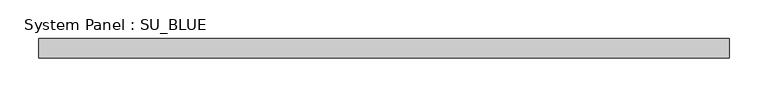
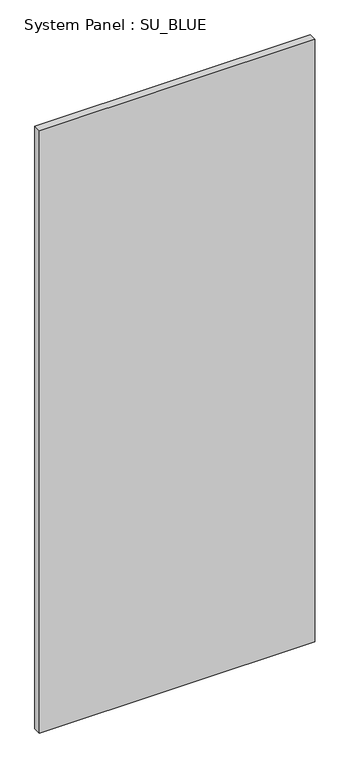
"""IFC4 building model written with IfcOpenShell, lengths in millimetres: plate geometry, System Panel : SU_BLUE."""

import ifcopenshell
import ifcopenshell.guid

model = None  # the IFC model being written
_history = None  # IfcOwnerHistory: only IFC2X3 demands one
_inside = {}  # id of a spatial element -> (the spatial element, [elements in it])
_under = {}  # id of a project, library or spatial element -> (it, [spatial elements below it])
_declared = {}  # id of a project -> (the project, [libraries it declares])
_typed = {}  # id of a type object -> (the type object, [elements of that type])
_made_of = {}  # id of a material, layer set ... -> (it, [elements and type objects made of it])


def new_model(schema):
    """Start an empty IFC model of exactly this schema.

    Asked for "IFC4X3", IfcOpenShell would pick the latest addendum, in which some entities
    have other attributes; the version numbers below select the first issue.
    IFC2X3 requires an IfcOwnerHistory on every rooted entity: one is made here for all.
    """
    global model, _history
    if schema == "IFC4X3":
        model = ifcopenshell.file(schema_version=(4, 3, 0, 0))
    else:
        model = ifcopenshell.file(schema=schema)
    _inside.clear()
    _under.clear()
    _declared.clear()
    _typed.clear()
    _made_of.clear()
    _history = None
    if model.schema == "IFC2X3":
        org = make("IfcOrganization", Name="unknown")
        user = make(
            "IfcPersonAndOrganization",
            ThePerson=make("IfcPerson", FamilyName="unknown"),
            TheOrganization=org,
        )
        app = make(
            "IfcApplication",
            ApplicationDeveloper=org,
            Version="unknown",
            ApplicationFullName="unknown",
            ApplicationIdentifier="unknown",
        )
        _history = make(
            "IfcOwnerHistory",
            OwningUser=user,
            OwningApplication=app,
            ChangeAction="ADDED",
            CreationDate=0,
        )
    return model


def make(cls, **values):
    """One entity of the class cls with the attributes given. An attribute that is None is left unset."""
    return model.create_entity(
        cls, **{name: value for name, value in values.items() if value is not None}
    )


def rooted(cls, **values):
    """An entity with a GlobalId (a new one), such as an element, a storey or a relation."""
    return make(cls, GlobalId=ifcopenshell.guid.new(), OwnerHistory=_history, **values)


def si_unit(unit_type, name, prefix=None):
    """IfcSIUnit, for example si_unit("LENGTHUNIT", "METRE", prefix="MILLI")."""
    return make("IfcSIUnit", UnitType=unit_type, Prefix=prefix, Name=name)


def assignment(units):
    """IfcUnitAssignment: the units of a project."""
    return None if units is None else make("IfcUnitAssignment", Units=units)


def point(xyz):
    """IfcCartesianPoint."""
    return None if xyz is None else make("IfcCartesianPoint", Coordinates=xyz)


def direction(xyz):
    """IfcDirection."""
    return None if xyz is None else make("IfcDirection", DirectionRatios=xyz)


def frame(location, z_axis=None, x_axis=None):
    """IfcAxis2Placement3D, a coordinate frame: its origin and axes. An axis left out is left unset."""
    return make(
        "IfcAxis2Placement3D",
        Location=point(location),
        Axis=direction(z_axis),
        RefDirection=direction(x_axis),
    )


def origin():
    """The frame at (0, 0, 0) with its axes left unset."""
    return frame((0.0, 0.0, 0.0))


def origin_with_axes():
    """The frame at (0, 0, 0) with the z axis (0, 0, 1) and the x axis (1, 0, 0) written out."""
    return frame((0.0, 0.0, 0.0), z_axis=(0.0, 0.0, 1.0), x_axis=(1.0, 0.0, 0.0))


def place(relative_to, where):
    """IfcLocalPlacement: puts the frame where relative to a parent placement (None: the world)."""
    return make(
        "IfcLocalPlacement", PlacementRelTo=relative_to, RelativePlacement=where
    )


def context(
    kind, dimensions, precision=None, world=None, true_north=None, identifier=None
):
    """IfcGeometricRepresentationContext, for example the 3D "Model" context."""
    return make(
        "IfcGeometricRepresentationContext",
        ContextIdentifier=identifier,
        ContextType=kind,
        CoordinateSpaceDimension=dimensions,
        Precision=precision,
        WorldCoordinateSystem=world,
        TrueNorth=true_north,
    )


def project(units=None, contexts=None):
    """IfcProject with its units and contexts."""
    return rooted(
        "IfcProject",
        Name="project",
        RepresentationContexts=contexts,
        UnitsInContext=assignment(units),
    )


def spatial(cls, under=None, at=None, **own):
    """A site, building, storey or space (cls), placed at a placement, below another one or the project."""
    s = rooted(cls, ObjectPlacement=at, **own)
    if under is not None:
        _under.setdefault(under.id(), (under, []))[1].append(s)
    return s


def polyline(points):
    """IfcPolyline through the points."""
    return make("IfcPolyline", Points=[point(p) for p in points])


def outline(outer, holes=None, kind="AREA"):
    """IfcArbitraryClosedProfileDef: a profile drawn as a closed curve; with holes, ...WithVoids."""
    if holes is None:
        return make("IfcArbitraryClosedProfileDef", ProfileType=kind, OuterCurve=outer)
    return make(
        "IfcArbitraryProfileDefWithVoids",
        ProfileType=kind,
        OuterCurve=outer,
        InnerCurves=holes,
    )


def extrude(swept, where, along, depth):
    """IfcExtrudedAreaSolid: the profile swept, set in the frame where, extruded along a direction by depth."""
    return make(
        "IfcExtrudedAreaSolid",
        SweptArea=swept,
        Position=where,
        ExtrudedDirection=direction(along),
        Depth=depth,
    )


def shape(context_of_items, identifier, shape_type, items):
    """IfcShapeRepresentation: the items that make up one representation, for example the "Body"."""
    return make(
        "IfcShapeRepresentation",
        ContextOfItems=context_of_items,
        RepresentationIdentifier=identifier,
        RepresentationType=shape_type,
        Items=items,
    )


def source(mapping_origin, context_of_items, identifier, shape_type, items):
    """IfcRepresentationMap: a shape defined once, which mapped items show again and again."""
    return make(
        "IfcRepresentationMap",
        MappingOrigin=mapping_origin,
        MappedRepresentation=shape(context_of_items, identifier, shape_type, items),
    )


def transform(
    local_origin,
    x_axis=None,
    y_axis=None,
    z_axis=None,
    scale=None,
    scale2=None,
    scale3=None,
    uniform=True,
):
    """IfcCartesianTransformationOperator3D, or its non-uniform kind. x_axis, y_axis, z_axis: its Axis1, 2, 3."""
    if uniform:
        return make(
            "IfcCartesianTransformationOperator3D",
            Axis1=direction(x_axis),
            Axis2=direction(y_axis),
            LocalOrigin=point(local_origin),
            Scale=scale,
            Axis3=direction(z_axis),
        )
    return make(
        "IfcCartesianTransformationOperator3DnonUniform",
        Axis1=direction(x_axis),
        Axis2=direction(y_axis),
        LocalOrigin=point(local_origin),
        Scale=scale,
        Axis3=direction(z_axis),
        Scale2=scale2,
        Scale3=scale3,
    )


def mapped(mapping_source, mapping_target):
    """IfcMappedItem: shows the shape of a source again, moved by a transform."""
    return make(
        "IfcMappedItem", MappingSource=mapping_source, MappingTarget=mapping_target
    )


def made_of(thing, what):
    """Note that an element or type object is made of a material, layer set ...; save() writes the relation."""
    if what is not None:
        _made_of.setdefault(what.id(), (what, []))[1].append(thing)
    return thing


def element(
    cls,
    number,
    at=None,
    inside=None,
    cuts=None,
    type_object=None,
    material=None,
    context=None,
    identifier="Body",
    shape_type=None,
    held_by="IfcProductDefinitionShape",
    body=None,
    shapes=None,
    **own,
):
    """One element of the class cls, such as IfcWall. Its Tag is "e" and its number.

    at: its placement. inside: the storey or other place that contains it. cuts: it is an
    opening in that element (IfcRelVoidsElement). A single representation is given by context,
    identifier, shape_type and body (its items); several are given by shapes. held_by: the class
    of the entity that holds the representations. save() writes the other relations.
    """
    e = rooted(cls, Tag="e%d" % number, ObjectPlacement=at, **own)
    if body is not None:
        shapes = [shape(context, identifier, shape_type, body)]
    if shapes is not None:
        e.Representation = make(held_by, Representations=shapes)
    if inside is not None:
        _inside.setdefault(inside.id(), (inside, []))[1].append(e)
    if cuts is not None:
        rooted(
            "IfcRelVoidsElement", RelatingBuildingElement=cuts, RelatedOpeningElement=e
        )
    if type_object is not None:
        _typed.setdefault(type_object.id(), (type_object, []))[1].append(e)
    return made_of(e, material)


def aggregate(whole, parts):
    """IfcRelAggregates: a whole, such as a stair, and the parts it consists of."""
    return rooted("IfcRelAggregates", RelatingObject=whole, RelatedObjects=parts)


def save(model, path):
    """Write the relations noted so far, then the file.

    IfcRelAggregates (storeys below a building ...), IfcRelContainedInSpatialStructure (elements
    in a storey), IfcRelDefinesByType, IfcRelAssociatesMaterial and IfcRelDeclares: one each for
    every whole, place, type object, material and project.
    """
    for whole, parts in _under.values():
        aggregate(whole, parts)
    for where, things in _inside.values():
        rooted(
            "IfcRelContainedInSpatialStructure",
            RelatedElements=things,
            RelatingStructure=where,
        )
    for kind, things in _typed.values():
        rooted("IfcRelDefinesByType", RelatedObjects=things, RelatingType=kind)
    for what, things in _made_of.values():
        rooted("IfcRelAssociatesMaterial", RelatedObjects=things, RelatingMaterial=what)
    for by, libraries in _declared.values():
        rooted("IfcRelDeclares", RelatingContext=by, RelatedDefinitions=libraries)
    model.write(path)


def system_panel_su_blue_55959414(model_context):
    return source(origin(), model_context, "Body", "SweptSolid", [
        extrude(outline(polyline([(447.1096078, 19.05), (-447.1096078, 19.05), (-447.1096078, 44.45), (447.1096078, 44.45), (447.1096078, 19.05)])), origin_with_axes(), (0.0, 0.0, 1.0), 2070.1),
    ])


if __name__ == "__main__":
    model = new_model("IFC4")
    model_context = context("Model", 3, world=origin())
    ifc_project = project(units=[si_unit("LENGTHUNIT", "METRE", prefix="MILLI")], contexts=[model_context])
    site = spatial("IfcSite", under=ifc_project)
    building = spatial("IfcBuilding", under=site)
    placement = place(None, origin())
    system_panel_su_blue_shape = system_panel_su_blue_55959414(model_context)
    element("IfcPlate", 1, ObjectType="System Panel : SU_BLUE", at=placement, inside=building, context=model_context, shape_type="MappedRepresentation", body=[
        mapped(system_panel_su_blue_shape, transform((0.0, 0.0, 0.0), x_axis=(1.0, 0.0, 0.0), y_axis=(0.0, 1.0, 0.0), z_axis=(0.0, 0.0, 1.0))),
    ])
    save(model, "model.ifc")
